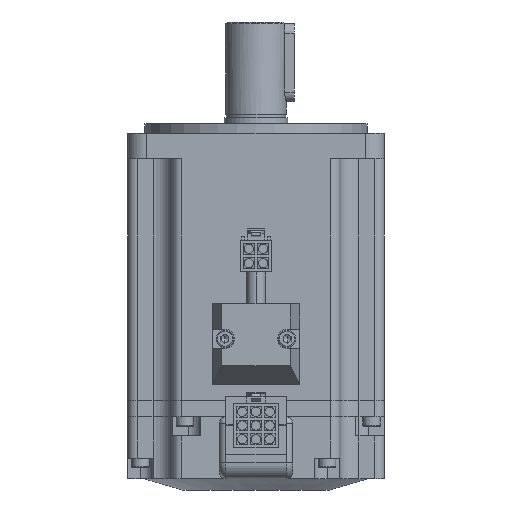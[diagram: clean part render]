
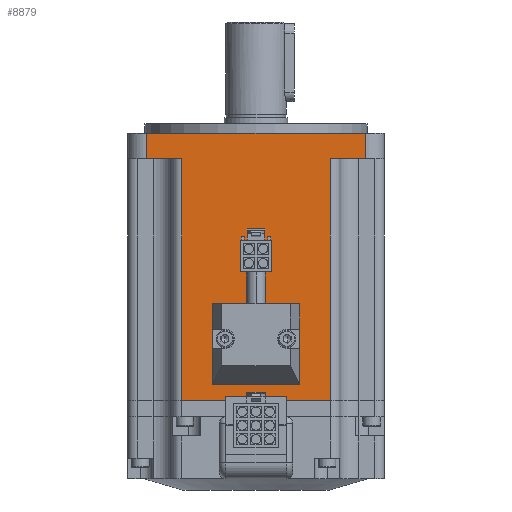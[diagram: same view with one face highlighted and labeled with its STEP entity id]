
A CAD part, front view. The second image highlights one B-rep face of the part: STEP entity #8879.
In plain terms, the highlighted planar face has unit normal (0, -1, 0).
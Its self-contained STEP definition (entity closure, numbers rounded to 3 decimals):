
#624 = CARTESIAN_POINT ( 'NONE',  ( 34.35, -40.35, 8. ) ) ;
#1404 = LINE ( 'NONE', #16370, #5165 ) ;
#1446 = LINE ( 'NONE', #8857, #7319 ) ;
#2241 = CARTESIAN_POINT ( 'NONE',  ( -26.35, -40.35, -75.8 ) ) ;
#2350 = EDGE_LOOP ( 'NONE', ( #11215, #8131, #5912, #6542, #3813, #16788, #3589, #3764 ) ) ;
#2645 = DIRECTION ( 'NONE',  ( -1., 0., 0. ) ) ;
#2665 = DIRECTION ( 'NONE',  ( -1., 0., 0. ) ) ;
#2783 = VECTOR ( 'NONE', #15588, 1000. ) ;
#2953 = FACE_OUTER_BOUND ( 'NONE', #2350, .T. ) ;
#3252 = CARTESIAN_POINT ( 'NONE',  ( -23.35, -40.35, 0. ) ) ;
#3324 = CARTESIAN_POINT ( 'NONE',  ( -23.35, -40.35, -75.8 ) ) ;
#3334 = EDGE_CURVE ( 'NONE', #5976, #12551, #14252, .T. ) ;
#3589 = ORIENTED_EDGE ( 'NONE', *, *, #12161, .F. ) ;
#3764 = ORIENTED_EDGE ( 'NONE', *, *, #19525, .T. ) ;
#3813 = ORIENTED_EDGE ( 'NONE', *, *, #18956, .T. ) ;
#4193 = VERTEX_POINT ( 'NONE', #3324 ) ;
#5165 = VECTOR ( 'NONE', #10398, 1000. ) ;
#5711 = CARTESIAN_POINT ( 'NONE',  ( 23.35, -40.35, 8. ) ) ;
#5900 = VERTEX_POINT ( 'NONE', #14607 ) ;
#5912 = ORIENTED_EDGE ( 'NONE', *, *, #3334, .F. ) ;
#5976 = VERTEX_POINT ( 'NONE', #7561 ) ;
#6019 = CARTESIAN_POINT ( 'NONE',  ( 40.35, -40.35, 8. ) ) ;
#6328 = VECTOR ( 'NONE', #7490, 1000. ) ;
#6542 = ORIENTED_EDGE ( 'NONE', *, *, #12707, .T. ) ;
#6922 = CARTESIAN_POINT ( 'NONE',  ( -34.35, -40.35, 8. ) ) ;
#7217 = LINE ( 'NONE', #6922, #12972 ) ;
#7319 = VECTOR ( 'NONE', #12031, 1000. ) ;
#7387 = VERTEX_POINT ( 'NONE', #8462 ) ;
#7490 = DIRECTION ( 'NONE',  ( 1., 0., 0. ) ) ;
#7561 = CARTESIAN_POINT ( 'NONE',  ( -34.35, -40.35, 8. ) ) ;
#8106 = CARTESIAN_POINT ( 'NONE',  ( 40.35, -40.35, 8. ) ) ;
#8131 = ORIENTED_EDGE ( 'NONE', *, *, #10710, .T. ) ;
#8293 = DIRECTION ( 'NONE',  ( 0., 0., -1. ) ) ;
#8462 = CARTESIAN_POINT ( 'NONE',  ( 34.35, -40.35, 0. ) ) ;
#8473 = VERTEX_POINT ( 'NONE', #3252 ) ;
#8724 = VERTEX_POINT ( 'NONE', #15941 ) ;
#8857 = CARTESIAN_POINT ( 'NONE',  ( -23.35, -40.35, 8. ) ) ;
#8879 = ADVANCED_FACE ( 'NONE', ( #2953 ), #19597, .F. ) ;
#9053 = LINE ( 'NONE', #19583, #6328 ) ;
#10144 = LINE ( 'NONE', #2241, #11511 ) ;
#10398 = DIRECTION ( 'NONE',  ( 1., 0., 0. ) ) ;
#10710 = EDGE_CURVE ( 'NONE', #7387, #12551, #19335, .T. ) ;
#10853 = VECTOR ( 'NONE', #11642, 1000. ) ;
#10963 = CARTESIAN_POINT ( 'NONE',  ( 34.35, -40.35, 8. ) ) ;
#11215 = ORIENTED_EDGE ( 'NONE', *, *, #14504, .T. ) ;
#11511 = VECTOR ( 'NONE', #2645, 1000. ) ;
#11642 = DIRECTION ( 'NONE',  ( 0., 0., 1. ) ) ;
#11737 = LINE ( 'NONE', #5711, #10853 ) ;
#12031 = DIRECTION ( 'NONE',  ( 0., 0., -1. ) ) ;
#12050 = DIRECTION ( 'NONE',  ( 0., 1., 0. ) ) ;
#12161 = EDGE_CURVE ( 'NONE', #15226, #4193, #10144, .T. ) ;
#12551 = VERTEX_POINT ( 'NONE', #10963 ) ;
#12707 = EDGE_CURVE ( 'NONE', #5976, #8724, #7217, .T. ) ;
#12972 = VECTOR ( 'NONE', #8293, 1000. ) ;
#14252 = LINE ( 'NONE', #8106, #17481 ) ;
#14272 = CARTESIAN_POINT ( 'NONE',  ( 23.35, -40.35, -75.8 ) ) ;
#14504 = EDGE_CURVE ( 'NONE', #5900, #7387, #9053, .T. ) ;
#14607 = CARTESIAN_POINT ( 'NONE',  ( 23.35, -40.35, 0. ) ) ;
#15226 = VERTEX_POINT ( 'NONE', #14272 ) ;
#15582 = EDGE_CURVE ( 'NONE', #8473, #4193, #1446, .T. ) ;
#15588 = DIRECTION ( 'NONE',  ( 0., 0., 1. ) ) ;
#15941 = CARTESIAN_POINT ( 'NONE',  ( -34.35, -40.35, 0. ) ) ;
#16370 = CARTESIAN_POINT ( 'NONE',  ( 40.35, -40.35, 0. ) ) ;
#16788 = ORIENTED_EDGE ( 'NONE', *, *, #15582, .T. ) ;
#17481 = VECTOR ( 'NONE', #18722, 1000. ) ;
#17556 = AXIS2_PLACEMENT_3D ( 'NONE', #6019, #12050, #2665 ) ;
#18722 = DIRECTION ( 'NONE',  ( 1., 0., 0. ) ) ;
#18956 = EDGE_CURVE ( 'NONE', #8724, #8473, #1404, .T. ) ;
#19335 = LINE ( 'NONE', #624, #2783 ) ;
#19525 = EDGE_CURVE ( 'NONE', #15226, #5900, #11737, .T. ) ;
#19583 = CARTESIAN_POINT ( 'NONE',  ( 40.35, -40.35, 0. ) ) ;
#19597 = PLANE ( 'NONE',  #17556 ) ;
